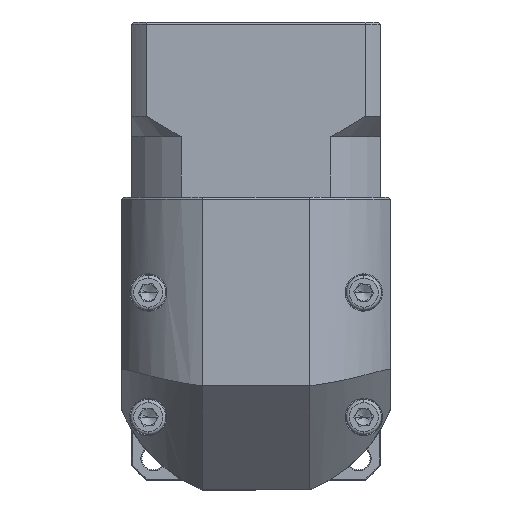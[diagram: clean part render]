
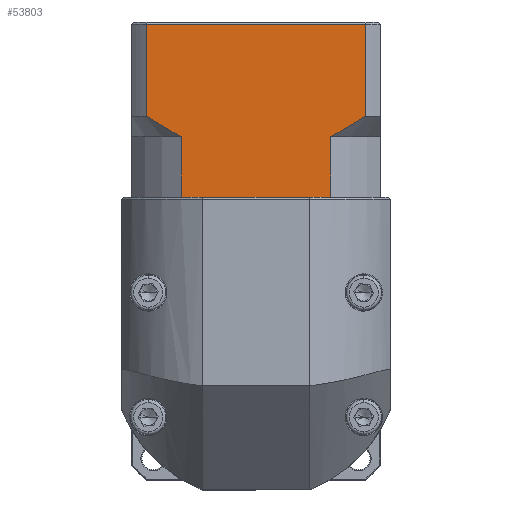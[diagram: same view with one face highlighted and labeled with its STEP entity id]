
A CAD part, top view. The second image highlights one B-rep face of the part: STEP entity #53803.
In plain terms, the highlighted planar face has unit normal (0, 0, 1).
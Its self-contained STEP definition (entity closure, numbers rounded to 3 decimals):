
#70 = CARTESIAN_POINT ( 'NONE',  ( -90.116, 76.693, 65.811 ) ) ;
#2959 = VERTEX_POINT ( 'NONE', #106169 ) ;
#3460 = LINE ( 'NONE', #51279, #45706 ) ;
#4321 = DIRECTION ( 'NONE',  ( 0., 1., 0. ) ) ;
#4631 = DIRECTION ( 'NONE',  ( 1., 0., 0. ) ) ;
#4675 = EDGE_CURVE ( 'NONE', #97146, #27316, #80837, .T. ) ;
#4731 = CARTESIAN_POINT ( 'NONE',  ( -38.563, 75.791, 65.811 ) ) ;
#5488 = CARTESIAN_POINT ( 'NONE',  ( -42.748, 73.243, 65.811 ) ) ;
#6825 = EDGE_CURVE ( 'NONE', #96562, #2959, #15180, .T. ) ;
#6970 = EDGE_CURVE ( 'NONE', #27316, #20923, #85929, .T. ) ;
#7323 = CARTESIAN_POINT ( 'NONE',  ( -93.658, 98.893, 65.811 ) ) ;
#9218 = PLANE ( 'NONE',  #94425 ) ;
#9636 = CARTESIAN_POINT ( 'NONE',  ( -83.138, 72.441, 65.811 ) ) ;
#10207 = LINE ( 'NONE', #46180, #30578 ) ;
#10850 = LINE ( 'NONE', #36082, #55764 ) ;
#12312 = EDGE_CURVE ( 'NONE', #27202, #107327, #67325, .T. ) ;
#15180 = LINE ( 'NONE', #7323, #19235 ) ;
#16459 = DIRECTION ( 'NONE',  ( 0., 0., -1. ) ) ;
#16680 = DIRECTION ( 'NONE',  ( 1., 0., 0. ) ) ;
#18450 = CARTESIAN_POINT ( 'NONE',  ( -46.621, 57.193, 65.811 ) ) ;
#19235 = VECTOR ( 'NONE', #85689, 1000. ) ;
#20704 = CARTESIAN_POINT ( 'NONE',  ( -81.686, 57.193, 65.811 ) ) ;
#20923 = VERTEX_POINT ( 'NONE', #18450 ) ;
#21525 = ORIENTED_EDGE ( 'NONE', *, *, #40733, .T. ) ;
#24213 = EDGE_CURVE ( 'NONE', #96562, #107327, #84534, .T. ) ;
#25074 = VECTOR ( 'NONE', #96768, 1000. ) ;
#25568 = DIRECTION ( 'NONE',  ( 0., 1., 0. ) ) ;
#27017 = EDGE_CURVE ( 'NONE', #20923, #48915, #3460, .T. ) ;
#27202 = VERTEX_POINT ( 'NONE', #96899 ) ;
#27316 = VERTEX_POINT ( 'NONE', #81233 ) ;
#28600 = CARTESIAN_POINT ( 'NONE',  ( -88.756, 75.793, 65.811 ) ) ;
#29975 = DIRECTION ( 'NONE',  ( 0., -1., 0. ) ) ;
#29980 = CARTESIAN_POINT ( 'NONE',  ( -37.2, 98.893, 65.811 ) ) ;
#30201 = ORIENTED_EDGE ( 'NONE', *, *, #4675, .T. ) ;
#30578 = VECTOR ( 'NONE', #4321, 1000. ) ;
#31137 = DIRECTION ( 'NONE',  ( 0., -1., 0. ) ) ;
#36082 = CARTESIAN_POINT ( 'NONE',  ( -90.116, 71.693, 65.811 ) ) ;
#39224 = ORIENTED_EDGE ( 'NONE', *, *, #6970, .T. ) ;
#40733 = EDGE_CURVE ( 'NONE', #86187, #74941, #69391, .T. ) ;
#44829 = DIRECTION ( 'NONE',  ( 0., 1., 0. ) ) ;
#45199 = CARTESIAN_POINT ( 'NONE',  ( -81.686, 71.693, 65.811 ) ) ;
#45706 = VECTOR ( 'NONE', #16680, 1000. ) ;
#46043 = CARTESIAN_POINT ( 'NONE',  ( -87.377, 74.92, 65.811 ) ) ;
#46180 = CARTESIAN_POINT ( 'NONE',  ( -81.686, 71.693, 65.811 ) ) ;
#46600 = ORIENTED_EDGE ( 'NONE', *, *, #92722, .F. ) ;
#47308 = FACE_OUTER_BOUND ( 'NONE', #65248, .T. ) ;
#48086 = CARTESIAN_POINT ( 'NONE',  ( -45.63, 71.693, 65.811 ) ) ;
#48915 = VERTEX_POINT ( 'NONE', #98984 ) ;
#51279 = CARTESIAN_POINT ( 'NONE',  ( -93.658, 57.193, 65.811 ) ) ;
#53803 = ADVANCED_FACE ( 'NONE', ( #47308 ), #9218, .F. ) ;
#55764 = VECTOR ( 'NONE', #44829, 1000. ) ;
#57281 = VECTOR ( 'NONE', #29975, 1000. ) ;
#57937 = CARTESIAN_POINT ( 'NONE',  ( -37.2, 76.693, 65.811 ) ) ;
#59588 = LINE ( 'NONE', #66033, #111377 ) ;
#61653 = CARTESIAN_POINT ( 'NONE',  ( -84.569, 73.244, 65.811 ) ) ;
#65248 = EDGE_LOOP ( 'NONE', ( #83647, #94057, #46600, #21525, #94546, #30201, #39224, #97676, #100366, #82901 ) ) ;
#66033 = CARTESIAN_POINT ( 'NONE',  ( -45.63, 71.693, 65.811 ) ) ;
#67325 = B_SPLINE_CURVE_WITH_KNOTS ( 'NONE', 3,
 ( #48086, #108846, #5488, #110355, #4731, #57937 ),
 .UNSPECIFIED., .F., .F.,
 ( 4, 2, 4 ),
 ( 0.1, 0.104, 0.109 ),
 .UNSPECIFIED. ) ;
#68500 = CARTESIAN_POINT ( 'NONE',  ( -93.658, 99.393, 65.811 ) ) ;
#69391 = B_SPLINE_CURVE_WITH_KNOTS ( 'NONE', 3,
 ( #106077, #28600, #46043, #61653, #9636, #70395 ),
 .UNSPECIFIED., .F., .F.,
 ( 4, 2, 4 ),
 ( 0.052, 0.057, 0.062 ),
 .UNSPECIFIED. ) ;
#69795 = EDGE_CURVE ( 'NONE', #27202, #48915, #59588, .T. ) ;
#70395 = CARTESIAN_POINT ( 'NONE',  ( -81.686, 71.693, 65.811 ) ) ;
#74941 = VERTEX_POINT ( 'NONE', #45199 ) ;
#79270 = CARTESIAN_POINT ( 'NONE',  ( -93.658, 57.193, 65.811 ) ) ;
#80837 = LINE ( 'NONE', #79270, #25074 ) ;
#81233 = CARTESIAN_POINT ( 'NONE',  ( -80.695, 57.193, 65.811 ) ) ;
#82901 = ORIENTED_EDGE ( 'NONE', *, *, #12312, .T. ) ;
#83647 = ORIENTED_EDGE ( 'NONE', *, *, #24213, .F. ) ;
#84534 = LINE ( 'NONE', #89694, #57281 ) ;
#85689 = DIRECTION ( 'NONE',  ( -1., 0., 0. ) ) ;
#85929 = LINE ( 'NONE', #108742, #110335 ) ;
#86187 = VERTEX_POINT ( 'NONE', #70 ) ;
#89694 = CARTESIAN_POINT ( 'NONE',  ( -37.2, 71.693, 65.811 ) ) ;
#92722 = EDGE_CURVE ( 'NONE', #86187, #2959, #10850, .T. ) ;
#94057 = ORIENTED_EDGE ( 'NONE', *, *, #6825, .T. ) ;
#94425 = AXIS2_PLACEMENT_3D ( 'NONE', #68500, #16459, #25568 ) ;
#94546 = ORIENTED_EDGE ( 'NONE', *, *, #97112, .F. ) ;
#96562 = VERTEX_POINT ( 'NONE', #29980 ) ;
#96768 = DIRECTION ( 'NONE',  ( 1., 0., 0. ) ) ;
#96899 = CARTESIAN_POINT ( 'NONE',  ( -45.63, 71.693, 65.811 ) ) ;
#97112 = EDGE_CURVE ( 'NONE', #97146, #74941, #10207, .T. ) ;
#97146 = VERTEX_POINT ( 'NONE', #20704 ) ;
#97676 = ORIENTED_EDGE ( 'NONE', *, *, #27017, .T. ) ;
#98984 = CARTESIAN_POINT ( 'NONE',  ( -45.63, 57.193, 65.811 ) ) ;
#100366 = ORIENTED_EDGE ( 'NONE', *, *, #69795, .F. ) ;
#106077 = CARTESIAN_POINT ( 'NONE',  ( -90.116, 76.693, 65.811 ) ) ;
#106169 = CARTESIAN_POINT ( 'NONE',  ( -90.116, 98.893, 65.811 ) ) ;
#107327 = VERTEX_POINT ( 'NONE', #112417 ) ;
#108742 = CARTESIAN_POINT ( 'NONE',  ( -93.658, 57.193, 65.811 ) ) ;
#108846 = CARTESIAN_POINT ( 'NONE',  ( -44.174, 72.443, 65.811 ) ) ;
#110335 = VECTOR ( 'NONE', #4631, 1000. ) ;
#110355 = CARTESIAN_POINT ( 'NONE',  ( -39.943, 74.918, 65.811 ) ) ;
#111377 = VECTOR ( 'NONE', #31137, 1000. ) ;
#112417 = CARTESIAN_POINT ( 'NONE',  ( -37.2, 76.693, 65.811 ) ) ;
